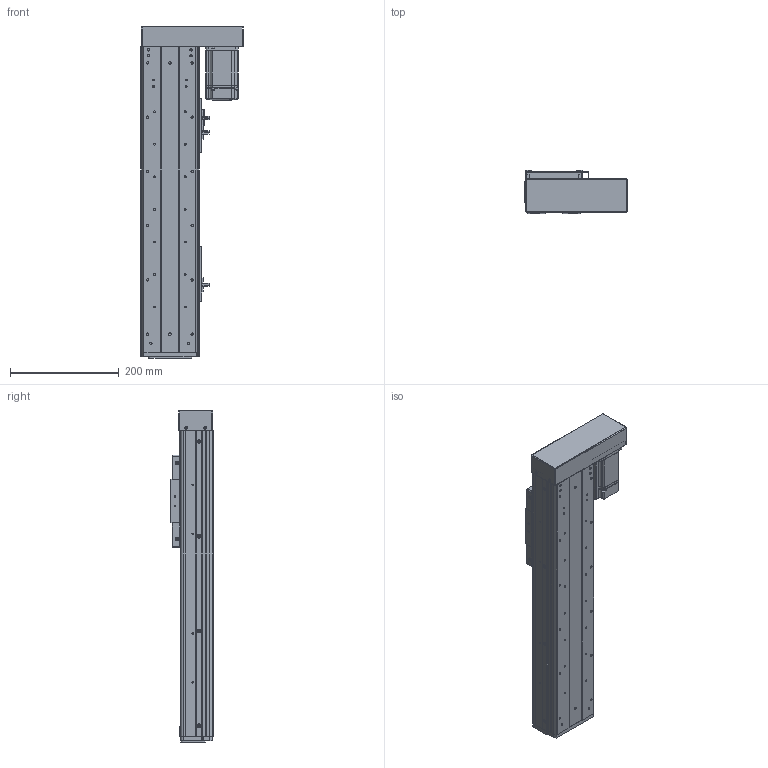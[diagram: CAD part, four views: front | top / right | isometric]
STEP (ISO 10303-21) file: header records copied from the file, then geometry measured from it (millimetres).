
FILE_DESCRIPTION (( 'STEP AP203' ), '1' );
FILE_NAME ('RY100FS-L1620-300-RK(15双轨).SLDASM_300.step', '2021-03-02T07:45:45', ( '盈信电脑' ), ( '东莞市道滘镇水果街19号' ), 'SwSTEP 2.0', 'SolidWorks 2012', '' );
FILE_SCHEMA (( 'CONFIG_CONTROL_DESIGN' ));
Products named in the file (21): RY100FS-15邧寢蛌殏萇儂啣; RY100FS-15邧寢蛌殏萇儂欶; RY100FS-L1620-300-RK(15邧寢).SLDASM_300; 蚥薯蝶紫輸; RY100FS-双轨螺母座(16丝杆）; RY100FS-15邧寢蛌殏萇儂釱; 滅袉蝶14-35; 1; RY100F-詩湍揤踡輸; 覜茼ん672; RY80俋离覜茼え; 672嫖萇羲壽假蚾釱; RY100F-詩湍幗謫粣; 棠沺沭; RY100F-詩湍揤踡謫; RY100F-綴裔啣; RY100F-滅鳥裔啣; RY100FS-300-RK15邧寢祥凄詩湍; RY100FS-双轨铝滑块(上板）; RY100FS-300-RK15絳寢倰第奻裔啣; RY100FS-300-RK15絳寢倰第菁釱
Assembly tree (29 placements, depth 2):
  RY100FS-L1620-300-RK(15邧寢).SLDASM_300
    RY100FS-300-RK15絳寢倰第菁釱
    RY100FS-300-RK15絳寢倰第奻裔啣  x2
    RY100FS-300-RK15邧寢祥凄詩湍
    RY100FS-双轨铝滑块(上板）
    RY100F-滅鳥裔啣
    棠沺沭  x2
    RY100F-詩湍幗謫粣
    RY100F-詩湍揤踡謫  x2
    RY100F-綴裔啣
    672嫖萇羲壽假蚾釱  x2
    RY80俋离覜茼え  x2
    覜茼ん672  x3
    RY100F-詩湍揤踡輸  x2
    RY100FS-双轨螺母座(16丝杆）
    RY100FS-15邧寢蛌殏萇儂釱
    滅袉蝶14-35
    1
    RY100FS-15邧寢蛌殏萇儂啣
    RY100FS-15邧寢蛌殏萇儂欶
    蚥薯蝶紫輸  x2
Bounding box: 189.5 x 78.5 x 612 mm (x, y, z)
Volume: 1829245.8 mm3; surface area: 752149.1 mm2
Topology: 29 solids, 29 shells, 2173 faces, 5854 edges, 3774 vertices
Faces by surface type: plane 1018, cylinder 954, cone 168, bspline 33
Entity records: 61188 total; most frequent: CARTESIAN_POINT 12456, DIRECTION 9755, ORIENTED_EDGE 9516, EDGE_CURVE 4758, AXIS2_PLACEMENT_3D 3444, VERTEX_POINT 3122, VECTOR 2867, LINE 2867
